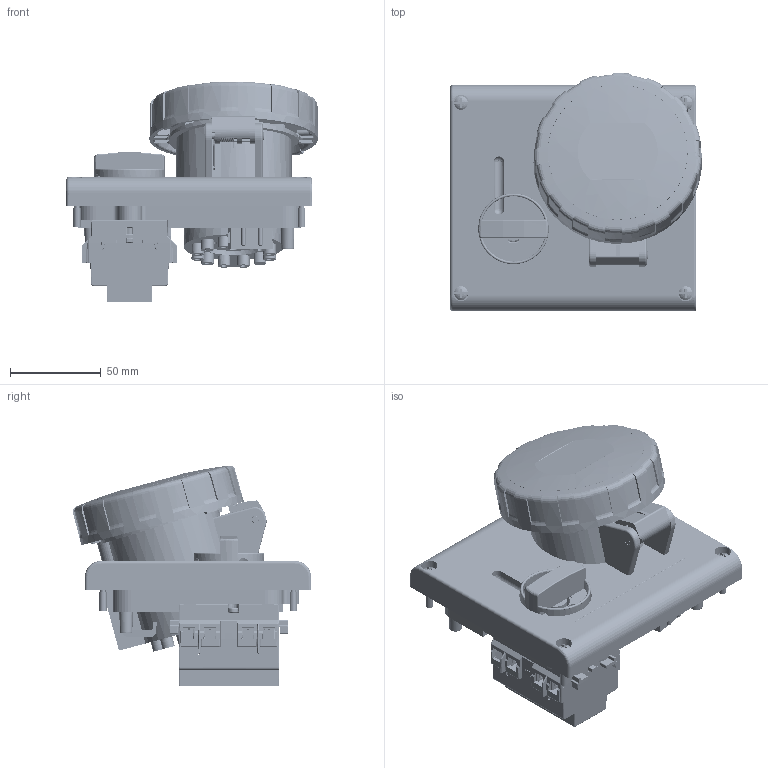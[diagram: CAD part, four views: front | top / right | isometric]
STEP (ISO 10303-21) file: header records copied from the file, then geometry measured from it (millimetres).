
FILE_DESCRIPTION(/* description */ (''),/* implementation_level */ '2;1');
FILE_NAME(/* name */ '4003479.stp',/* time_stamp */ '2020-02-12T08:03:37+01:00',/* author */ (''),/* organization */ (''),/* preprocessor_version */ 'ST-DEVELOPER v16.7',/* originating_system */ 'SIEMENS PLM Software NX 1892',/* authorisation */ '');
FILE_SCHEMA (('AUTOMOTIVE_DESIGN { 1 0 10303 214 3 1 1 1 }'));
Products named in the file (1): BSOM4CC43EF4kugt
Bounding box: 138.96 x 131.68 x 122 mm (x, y, z)
Volume: 290775.2 mm3; surface area: 281366.8 mm2
Topology: 61 solids, 61 shells, 7016 faces, 18554 edges, 11690 vertices
Faces by surface type: plane 3716, cylinder 2029, bspline 622, cone 228, torus 177, sphere 157, extrusion 79, revolution 8
Full cylindrical faces by diameter (mm): 1 x3, 1.5 x2, 1.6 x1, 2.25 x1, 2.393 x5, 2.5 x12, 2.7 x2, 2.8 x6, 2.9 x6, 2.991 x5, 3 x9, 3.1 x2, 3.19 x2, 3.2 x17, 3.5 x23, 3.7 x3, 4 x19, 4.1 x2, 4.3 x2, 4.4 x7, 4.5 x10, 4.7 x4, 5 x3, 5.7 x2, 6 x4, 6.1 x3, 6.221 x4, 6.231 x4, 7 x17, 7.2 x6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
Entity records: 247505 total; most frequent: CARTESIAN_POINT 78825, ORIENTED_EDGE 35558, DIRECTION 33700, EDGE_CURVE 17779, VERTEX_POINT 11496, AXIS2_PLACEMENT_3D 11442, VECTOR 10808, LINE 10729
